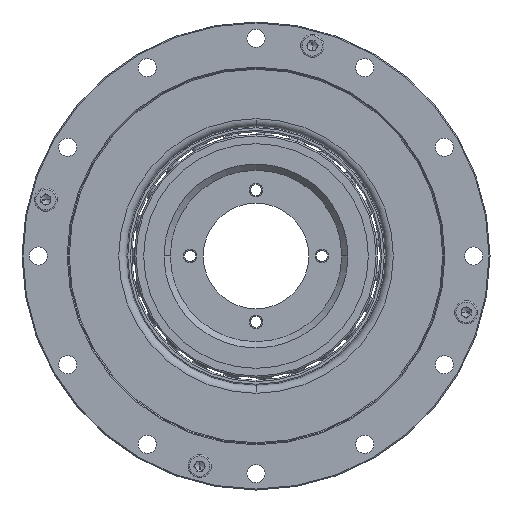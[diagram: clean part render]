
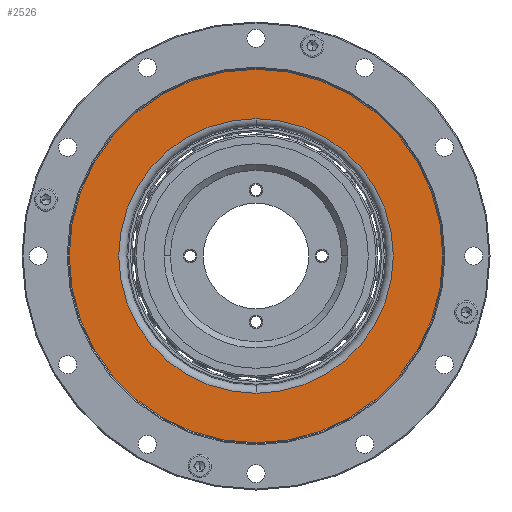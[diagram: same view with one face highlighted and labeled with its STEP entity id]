
A CAD part, left-side view. The second image highlights one B-rep face of the part: STEP entity #2526.
In plain terms, the highlighted planar face has unit normal (-1, 0, 0).
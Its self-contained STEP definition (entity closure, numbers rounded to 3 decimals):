
#1364=CARTESIAN_POINT('',(5.14,0.,0.));
#1365=DIRECTION('',(-1.,0.,0.));
#1366=DIRECTION('',(0.,0.,1.));
#1367=AXIS2_PLACEMENT_3D('',#1364,#1365,#1366);
#1369=CARTESIAN_POINT('',(5.14,0.,0.));
#1370=DIRECTION('',(-1.,0.,0.));
#1371=DIRECTION('',(0.,0.,-1.));
#1372=AXIS2_PLACEMENT_3D('',#1369,#1370,#1371);
#1374=CARTESIAN_POINT('',(5.14,0.,0.));
#1375=DIRECTION('',(1.,0.,0.));
#1376=DIRECTION('',(0.,0.,-1.));
#1377=AXIS2_PLACEMENT_3D('',#1374,#1375,#1376);
#1379=CARTESIAN_POINT('',(5.14,0.,0.));
#1380=DIRECTION('',(1.,0.,0.));
#1381=DIRECTION('',(0.,0.,1.));
#1382=AXIS2_PLACEMENT_3D('',#1379,#1380,#1381);
#1597=CARTESIAN_POINT('',(5.14,0.,41.66));
#1599=VERTEX_POINT('',#1597);
#1606=CARTESIAN_POINT('',(5.14,0.,-56.675));
#1607=CARTESIAN_POINT('',(5.14,0.,56.675));
#1608=VERTEX_POINT('',#1606);
#1609=VERTEX_POINT('',#1607);
#1716=CARTESIAN_POINT('',(5.14,0.,-41.66));
#1717=VERTEX_POINT('',#1716);
#2510=CARTESIAN_POINT('',(5.14,56.675,0.));
#2511=DIRECTION('',(1.,0.,0.));
#2512=DIRECTION('',(0.,0.,-1.));
#2513=AXIS2_PLACEMENT_3D('',#2510,#2511,#2512);
#2514=PLANE('',#2513);
#2516=ORIENTED_EDGE('',*,*,#2515,.F.);
#2517=ORIENTED_EDGE('',*,*,#2500,.F.);
#2518=EDGE_LOOP('',(#2516,#2517));
#2519=FACE_OUTER_BOUND('',#2518,.F.);
#2521=ORIENTED_EDGE('',*,*,#2520,.F.);
#2523=ORIENTED_EDGE('',*,*,#2522,.F.);
#2524=EDGE_LOOP('',(#2521,#2523));
#2525=FACE_BOUND('',#2524,.F.);
#1368=CIRCLE('',#1367,56.675);
#1373=CIRCLE('',#1372,56.675);
#1378=CIRCLE('',#1377,41.66);
#1383=CIRCLE('',#1382,41.66);
#2500=EDGE_CURVE('',#1608,#1609,#1373,.T.);
#2515=EDGE_CURVE('',#1609,#1608,#1368,.T.);
#2520=EDGE_CURVE('',#1717,#1599,#1378,.T.);
#2522=EDGE_CURVE('',#1599,#1717,#1383,.T.);
#2526=ADVANCED_FACE('',(#2519,#2525),#2514,.F.);
